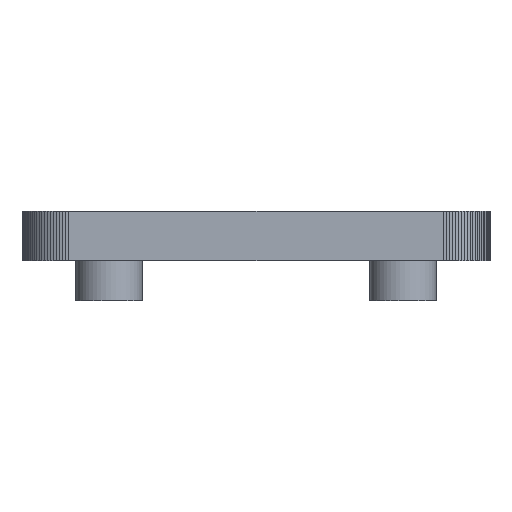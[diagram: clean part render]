
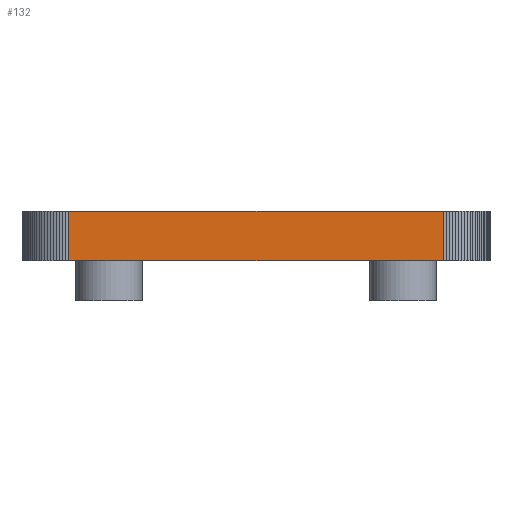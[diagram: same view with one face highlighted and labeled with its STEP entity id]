
A CAD part, front view. The second image highlights one B-rep face of the part: STEP entity #132.
In plain terms, the highlighted free-form (B-spline) face has degree [1, 1] with [2, 2] control points.
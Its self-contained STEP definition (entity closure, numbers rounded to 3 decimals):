
#21 = EDGE_CURVE('',#22,#24,#26,.T.);
#22 = VERTEX_POINT('',#23);
#23 = CARTESIAN_POINT('',(0.,-103.75,8.));
#24 = VERTEX_POINT('',#25);
#25 = CARTESIAN_POINT('',(0.,-103.75,12.));
#26 = SURFACE_CURVE('',#27,(#30,#42),.PCURVE_S1.);
#27 = B_SPLINE_CURVE_WITH_KNOTS('',1,(#28,#29),.UNSPECIFIED.,.F.,.F.,(2,
    2),(0.,314.961),.PIECEWISE_BEZIER_KNOTS.);
#28 = CARTESIAN_POINT('',(0.,-103.75,8.));
#29 = CARTESIAN_POINT('',(0.,-103.75,12.));
#30 = PCURVE('',#31,#36);
#31 = B_SPLINE_SURFACE_WITH_KNOTS('',1,1,(
    (#32,#33)
    ,(#34,#35
    )),.UNSPECIFIED.,.F.,.F.,.F.,(2,2),(2,2),(0.,10.081),(
    -314.961,0.),.PIECEWISE_BEZIER_KNOTS.);
#32 = CARTESIAN_POINT('',(0.,-103.75,12.));
#33 = CARTESIAN_POINT('',(0.,-103.75,8.));
#34 = CARTESIAN_POINT('',(-0.256,-103.741,12.)
  );
#35 = CARTESIAN_POINT('',(-0.256,-103.741,8.));
#36 = DEFINITIONAL_REPRESENTATION('',(#37),#41);
#37 = B_SPLINE_CURVE_WITH_KNOTS('',2,(#38,#39,#40),.UNSPECIFIED.,.F.,.F.
  ,(3,3),(0.,314.961),.PIECEWISE_BEZIER_KNOTS.);
#38 = CARTESIAN_POINT('',(0.,0.));
#39 = CARTESIAN_POINT('',(0.,-157.48));
#40 = CARTESIAN_POINT('',(0.,-314.961));
#41 = ( GEOMETRIC_REPRESENTATION_CONTEXT(2) 
PARAMETRIC_REPRESENTATION_CONTEXT() REPRESENTATION_CONTEXT('2D SPACE',''
  ) );
#42 = PCURVE('',#43,#48);
#43 = B_SPLINE_SURFACE_WITH_KNOTS('',1,1,(
    (#44,#45)
    ,(#46,#47
  )),.UNSPECIFIED.,.F.,.F.,.F.,(2,2),(2,2),(0.,1181.102),(-314.961
    ,0.),.PIECEWISE_BEZIER_KNOTS.);
#44 = CARTESIAN_POINT('',(30.,-103.75,
    12.));
#45 = CARTESIAN_POINT('',(30.,-103.75,8.)
  );
#46 = CARTESIAN_POINT('',(0.,-103.75,12.));
#47 = CARTESIAN_POINT('',(0.,-103.75,8.));
#48 = DEFINITIONAL_REPRESENTATION('',(#49),#53);
#49 = B_SPLINE_CURVE_WITH_KNOTS('',2,(#50,#51,#52),.UNSPECIFIED.,.F.,.F.
  ,(3,3),(0.,314.961),.PIECEWISE_BEZIER_KNOTS.);
#50 = CARTESIAN_POINT('',(1181.102,0.));
#51 = CARTESIAN_POINT('',(1181.102,-157.48));
#52 = CARTESIAN_POINT('',(1181.102,-314.961));
#53 = ( GEOMETRIC_REPRESENTATION_CONTEXT(2) 
PARAMETRIC_REPRESENTATION_CONTEXT() REPRESENTATION_CONTEXT('2D SPACE',''
  ) );
#70 = B_SPLINE_SURFACE_WITH_KNOTS('',1,1,(
    (#71,#72)
    ,(#73,#74
    )),.UNSPECIFIED.,.F.,.F.,.F.,(2,2),(2,2),(-738.189,738.189)
  ,(-2116.142,2116.142),.PIECEWISE_BEZIER_KNOTS.);
#71 = CARTESIAN_POINT('',(33.75,-103.75,
    12.));
#72 = CARTESIAN_POINT('',(33.75,3.75,12.
    ));
#73 = CARTESIAN_POINT('',(-3.75,-103.75,
    12.));
#74 = CARTESIAN_POINT('',(-3.75,3.75,12.
    ));
#121 = B_SPLINE_SURFACE_WITH_KNOTS('',1,1,(
    (#122,#123)
    ,(#124,#125
    )),.UNSPECIFIED.,.F.,.F.,.F.,(2,2),(2,2),(-738.189,738.189),(
    -2116.142,2116.142),.PIECEWISE_BEZIER_KNOTS.);
#122 = CARTESIAN_POINT('',(33.75,-103.75,8.
    ));
#123 = CARTESIAN_POINT('',(33.75,3.75,8.)
  );
#124 = CARTESIAN_POINT('',(-3.75,-103.75,8.
    ));
#125 = CARTESIAN_POINT('',(-3.75,3.75,8.)
  );
#132 = ADVANCED_FACE('',(#133),#43,.T.);
#133 = FACE_BOUND('',#134,.T.);
#134 = EDGE_LOOP('',(#135,#164,#183,#184));
#135 = ORIENTED_EDGE('',*,*,#136,.T.);
#136 = EDGE_CURVE('',#137,#139,#141,.T.);
#137 = VERTEX_POINT('',#138);
#138 = CARTESIAN_POINT('',(30.,-103.75,8.
    ));
#139 = VERTEX_POINT('',#140);
#140 = CARTESIAN_POINT('',(30.,-103.75,
    12.));
#141 = SURFACE_CURVE('',#142,(#145,#152),.PCURVE_S1.);
#142 = B_SPLINE_CURVE_WITH_KNOTS('',1,(#143,#144),.UNSPECIFIED.,.F.,.F.,
  (2,2),(0.,314.961),.PIECEWISE_BEZIER_KNOTS.);
#143 = CARTESIAN_POINT('',(30.,-103.75,8.
    ));
#144 = CARTESIAN_POINT('',(30.,-103.75,
    12.));
#145 = PCURVE('',#43,#146);
#146 = DEFINITIONAL_REPRESENTATION('',(#147),#151);
#147 = B_SPLINE_CURVE_WITH_KNOTS('',2,(#148,#149,#150),.UNSPECIFIED.,.F.
  ,.F.,(3,3),(0.,314.961),.PIECEWISE_BEZIER_KNOTS.);
#148 = CARTESIAN_POINT('',(0.,0.));
#149 = CARTESIAN_POINT('',(0.,-157.48));
#150 = CARTESIAN_POINT('',(0.,-314.961));
#151 = ( GEOMETRIC_REPRESENTATION_CONTEXT(2) 
PARAMETRIC_REPRESENTATION_CONTEXT() REPRESENTATION_CONTEXT('2D SPACE',''
  ) );
#152 = PCURVE('',#153,#158);
#153 = B_SPLINE_SURFACE_WITH_KNOTS('',1,1,(
    (#154,#155)
    ,(#156,#157
    )),.UNSPECIFIED.,.F.,.F.,.F.,(2,2),(2,2),(0.,10.081),(
    -314.961,0.),.PIECEWISE_BEZIER_KNOTS.);
#154 = CARTESIAN_POINT('',(30.256,-103.741,12.)
  );
#155 = CARTESIAN_POINT('',(30.256,-103.741,8.));
#156 = CARTESIAN_POINT('',(30.,-103.75,
    12.));
#157 = CARTESIAN_POINT('',(30.,-103.75,8.
    ));
#158 = DEFINITIONAL_REPRESENTATION('',(#159),#163);
#159 = B_SPLINE_CURVE_WITH_KNOTS('',2,(#160,#161,#162),.UNSPECIFIED.,.F.
  ,.F.,(3,3),(0.,314.961),.PIECEWISE_BEZIER_KNOTS.);
#160 = CARTESIAN_POINT('',(10.081,0.));
#161 = CARTESIAN_POINT('',(10.081,-157.48));
#162 = CARTESIAN_POINT('',(10.081,-314.961));
#163 = ( GEOMETRIC_REPRESENTATION_CONTEXT(2) 
PARAMETRIC_REPRESENTATION_CONTEXT() REPRESENTATION_CONTEXT('2D SPACE',''
  ) );
#164 = ORIENTED_EDGE('',*,*,#165,.T.);
#165 = EDGE_CURVE('',#139,#24,#166,.T.);
#166 = SURFACE_CURVE('',#167,(#170,#177),.PCURVE_S1.);
#167 = B_SPLINE_CURVE_WITH_KNOTS('',1,(#168,#169),.UNSPECIFIED.,.F.,.F.,
  (2,2),(0.,1181.102),.PIECEWISE_BEZIER_KNOTS.);
#168 = CARTESIAN_POINT('',(30.,-103.75,
    12.));
#169 = CARTESIAN_POINT('',(0.,-103.75,12.));
#170 = PCURVE('',#43,#171);
#171 = DEFINITIONAL_REPRESENTATION('',(#172),#176);
#172 = B_SPLINE_CURVE_WITH_KNOTS('',2,(#173,#174,#175),.UNSPECIFIED.,.F.
  ,.F.,(3,3),(0.,1181.102),.PIECEWISE_BEZIER_KNOTS.);
#173 = CARTESIAN_POINT('',(0.,-314.961));
#174 = CARTESIAN_POINT('',(590.551,-314.961));
#175 = CARTESIAN_POINT('',(1181.102,-314.961));
#176 = ( GEOMETRIC_REPRESENTATION_CONTEXT(2) 
PARAMETRIC_REPRESENTATION_CONTEXT() REPRESENTATION_CONTEXT('2D SPACE',''
  ) );
#177 = PCURVE('',#70,#178);
#178 = DEFINITIONAL_REPRESENTATION('',(#179),#182);
#179 = B_SPLINE_CURVE_WITH_KNOTS('',1,(#180,#181),.UNSPECIFIED.,.F.,.F.,
  (2,2),(0.,1181.102),.PIECEWISE_BEZIER_KNOTS.);
#180 = CARTESIAN_POINT('',(-590.551,-2116.142));
#181 = CARTESIAN_POINT('',(590.551,-2116.142));
#182 = ( GEOMETRIC_REPRESENTATION_CONTEXT(2) 
PARAMETRIC_REPRESENTATION_CONTEXT() REPRESENTATION_CONTEXT('2D SPACE',''
  ) );
#183 = ORIENTED_EDGE('',*,*,#21,.F.);
#184 = ORIENTED_EDGE('',*,*,#185,.F.);
#185 = EDGE_CURVE('',#137,#22,#186,.T.);
#186 = SURFACE_CURVE('',#187,(#190,#197),.PCURVE_S1.);
#187 = B_SPLINE_CURVE_WITH_KNOTS('',1,(#188,#189),.UNSPECIFIED.,.F.,.F.,
  (2,2),(0.,1181.102),.PIECEWISE_BEZIER_KNOTS.);
#188 = CARTESIAN_POINT('',(30.,-103.75,8.
    ));
#189 = CARTESIAN_POINT('',(0.,-103.75,8.));
#190 = PCURVE('',#43,#191);
#191 = DEFINITIONAL_REPRESENTATION('',(#192),#196);
#192 = B_SPLINE_CURVE_WITH_KNOTS('',2,(#193,#194,#195),.UNSPECIFIED.,.F.
  ,.F.,(3,3),(0.,1181.102),.PIECEWISE_BEZIER_KNOTS.);
#193 = CARTESIAN_POINT('',(0.,0.));
#194 = CARTESIAN_POINT('',(590.551,0.));
#195 = CARTESIAN_POINT('',(1181.102,0.));
#196 = ( GEOMETRIC_REPRESENTATION_CONTEXT(2) 
PARAMETRIC_REPRESENTATION_CONTEXT() REPRESENTATION_CONTEXT('2D SPACE',''
  ) );
#197 = PCURVE('',#121,#198);
#198 = DEFINITIONAL_REPRESENTATION('',(#199),#209);
#199 = B_SPLINE_CURVE_WITH_KNOTS('',8,(#200,#201,#202,#203,#204,#205,
    #206,#207,#208),.UNSPECIFIED.,.F.,.F.,(9,9),(0.,1181.102),
  .PIECEWISE_BEZIER_KNOTS.);
#200 = CARTESIAN_POINT('',(-590.551,-2116.142));
#201 = CARTESIAN_POINT('',(-442.913,-2116.142));
#202 = CARTESIAN_POINT('',(-295.276,-2116.142));
#203 = CARTESIAN_POINT('',(-147.638,-2116.142));
#204 = CARTESIAN_POINT('',(0.,-2116.142));
#205 = CARTESIAN_POINT('',(147.638,-2116.142));
#206 = CARTESIAN_POINT('',(295.276,-2116.142));
#207 = CARTESIAN_POINT('',(442.913,-2116.142));
#208 = CARTESIAN_POINT('',(590.551,-2116.142));
#209 = ( GEOMETRIC_REPRESENTATION_CONTEXT(2) 
PARAMETRIC_REPRESENTATION_CONTEXT() REPRESENTATION_CONTEXT('2D SPACE',''
  ) );
